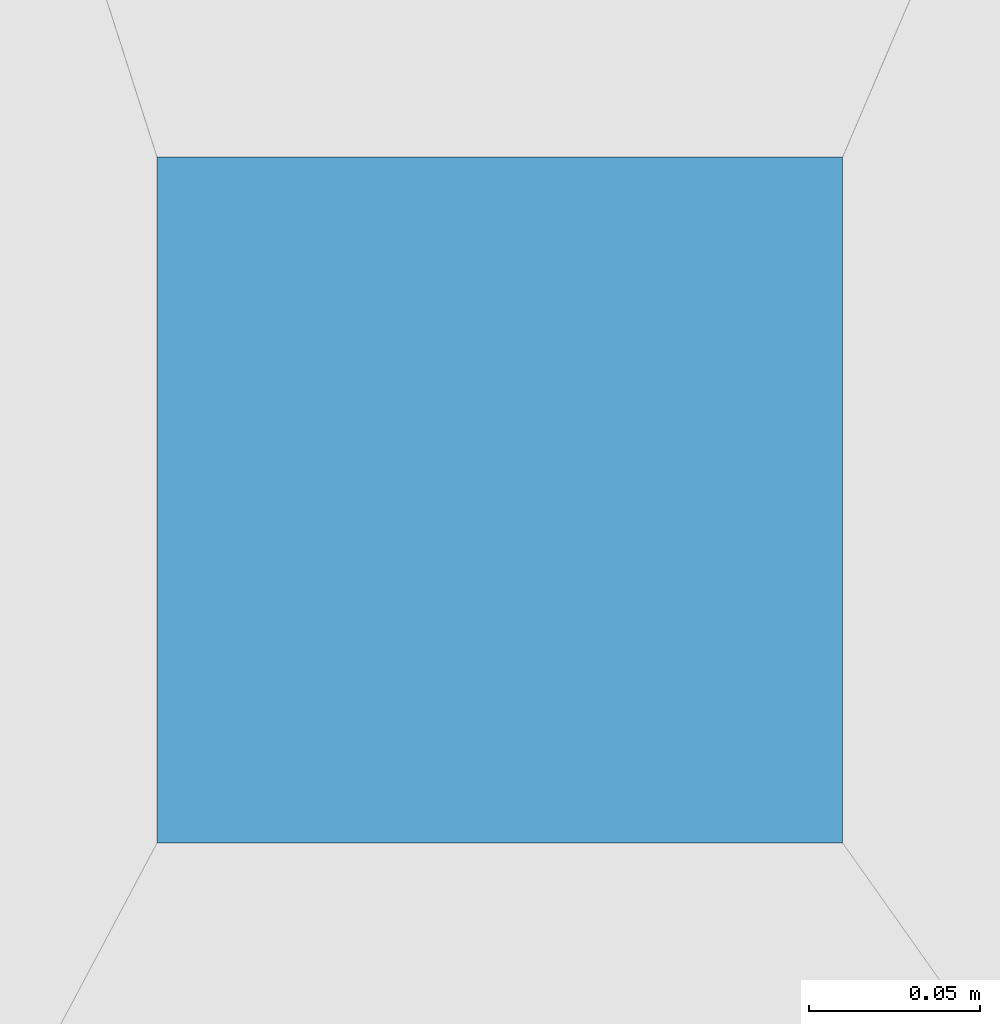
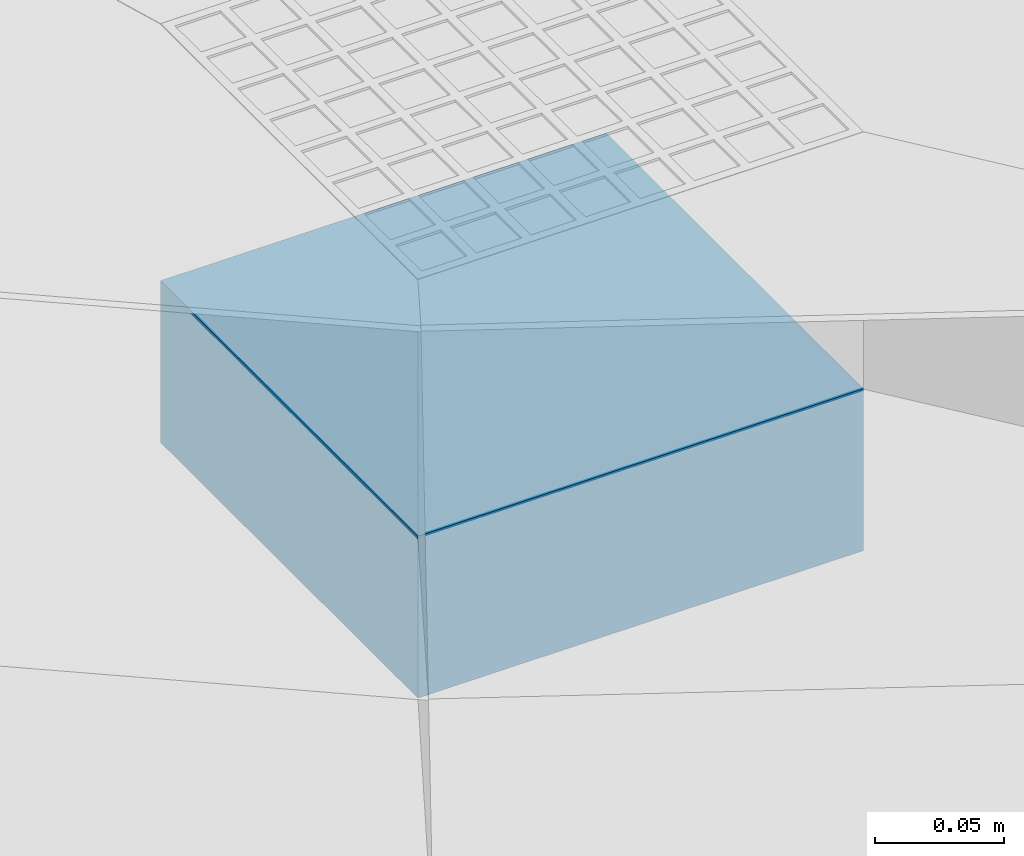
# One storey, part 149 of 418: 1 building element part, 1 element without a shape of its own.
"""IFC2X3 building model written with IfcOpenShell, lengths in millimetres."""

from ifc_helpers import new_model, entity, si_unit, converted_unit, derived_unit, money_unit, direction, frame, origin_with_axes, place, context, subcontext, project, spatial, polyline, outline, extrude, boolean, faceted_brep, material, type_object, element, aggregate, save


model = new_model("IFC2X3")

# Units and contexts
model_context = context("Model", 3, precision=0.01, world=origin_with_axes(), true_north=direction((0.0, 1.0)))
body_context = subcontext(model_context, "Body", "Model", "MODEL_VIEW")
ifc_project = project(units=[si_unit("LENGTHUNIT", "METRE", prefix="MILLI"), si_unit("AREAUNIT", "SQUARE_METRE"), si_unit("VOLUMEUNIT", "CUBIC_METRE"), converted_unit("PLANEANGLEUNIT", "DEGREE", entity("IfcPlaneAngleMeasure", 0.0174532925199), si_unit("PLANEANGLEUNIT", "RADIAN"), dimensions=[0, 0, 0, 0, 0, 0, 0]), si_unit("SOLIDANGLEUNIT", "STERADIAN"), money_unit("EUR"), converted_unit("TIMEUNIT", "Year", entity("IfcTimeMeasure", 31556926.0), si_unit("TIMEUNIT", "SECOND"), dimensions=[0, 0, 1, 0, 0, 0, 0]), si_unit("MASSUNIT", "GRAM", prefix="KILO"), si_unit("THERMODYNAMICTEMPERATUREUNIT", "DEGREE_CELSIUS"), si_unit("LUMINOUSINTENSITYUNIT", "LUMEN"), si_unit("ENERGYUNIT", "JOULE", prefix="MEGA"), derived_unit("THERMALCONDUCTANCEUNIT", [(si_unit("POWERUNIT", "WATT"), 1), (si_unit("LENGTHUNIT", "METRE"), -1), (si_unit("THERMODYNAMICTEMPERATUREUNIT", "KELVIN"), -1)]), derived_unit("SPECIFICHEATCAPACITYUNIT", [(si_unit("ENERGYUNIT", "JOULE"), 1), (si_unit("MASSUNIT", "GRAM", prefix="KILO"), -1), (si_unit("THERMODYNAMICTEMPERATUREUNIT", "KELVIN"), -1)]), derived_unit("MASSDENSITYUNIT", [(si_unit("MASSUNIT", "GRAM", prefix="KILO"), 1), (si_unit("VOLUMEUNIT", "CUBIC_METRE"), -1)])], contexts=[model_context])

# Site, building, storey
site_placement = place(None, origin_with_axes())
site = spatial("IfcSite", under=ifc_project, at=site_placement, Name="Paldiski mnt 245/1, Tallinn, Harjumaa", CompositionType="COMPLEX")
building_placement = place(site_placement, origin_with_axes())
building = spatial("IfcBuilding", under=site, at=building_placement, Name="RKAS Hoone üldnimetus (kasutust iseloomustav) -> IFC Project Manager -> SOLIBRI", CompositionType="ELEMENT")
storey_placement = place(building_placement, origin_with_axes())
storey = spatial("IfcBuildingStorey", under=building, at=storey_placement, Name="Esimene korrus", CompositionType="ELEMENT", Elevation=0.0)

# Plate, building element part
plate_type = type_object("IfcPlateType", Name="AP-02 pealiskihid 222", PredefinedType="NOTDEFINED")
plate_placement = place(storey_placement, frame((-55989.9999767, 995.071901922, 177.902209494), z_axis=(0.0, 0.0, 1.0), x_axis=(1.0, 0.0, 0.0)))
plate = element("IfcPlate", 1, at=plate_placement, inside=storey, type_object=plate_type, Name="Põranda soojustus")
ifc_material = material(Name="Kaldu lõigatud soojustus, EPS60 Silver")
building_element_part_placement = place(plate_placement, origin_with_axes())
building_element_part = element("IfcBuildingElementPart", 2, at=building_element_part_placement, material=ifc_material, Name="Kaldu lõigatud soojustus, EPS60 Silver", context=body_context, shape_type="CSG", body=[
    boolean("DIFFERENCE", boolean("DIFFERENCE", boolean("DIFFERENCE", extrude(outline(polyline([(200.0, 0.0), (0.0, 0.0), (0.0, -200.071908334), (200.0, -200.071908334), (200.0, 0.0)])), origin_with_axes(), (0.0, 0.0, 1.0), 100.0), faceted_brep([(0.0, 0.0, 23.0977905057), (200.0, 0.0, 23.0977905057), (200.0, 0.0, 0.0), (0.0, 0.0, 0.0), (200.0, -200.071908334, 23.0977905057), (0.0, -200.071908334, 23.0977905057), (200.0, -200.071908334, 0.0), (0.0, -200.071908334, 0.0)], [[[0, 1, 2, 3]], [[4, 1, 0, 5]], [[1, 4, 6, 2]], [[3, 2, 6, 7]], [[5, 0, 3, 7]], [[4, 5, 7, 6]]])), faceted_brep([(200.0, -200.071908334, 207.0), (200.0, -0.0719083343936, 207.0), (200.0, -0.0719083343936, 220.0), (200.0, -200.071908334, 220.0), (3.99999999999, -196.071908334, 207.0), (0.0, -200.071908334, 207.0), (0.0, -0.0719083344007, 207.0), (196.0, -196.071908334, 207.0), (196.0, -175.571908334, 207.0), (196.0, -171.571908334, 207.0), (196.0, -151.071908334, 207.0), (196.0, -147.071908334, 207.0), (196.0, -126.571908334, 207.0), (196.0, -122.571908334, 207.0), (196.0, -102.071908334, 207.0), (196.0, -98.0719083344, 207.0), (196.0, -77.5719083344, 207.0), (196.0, -73.5719083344, 207.0), (196.0, -53.0719083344, 207.0), (196.0, -49.0719083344, 207.0), (196.0, -28.5719083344, 207.0), (196.0, -24.5719083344, 207.0), (196.0, -4.07190833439, 207.0), (175.5, -4.07190833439, 207.0), (171.5, -4.07190833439, 207.0), (151.0, -4.0719083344, 207.0), (147.0, -4.0719083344, 207.0), (126.5, -4.0719083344, 207.0), (122.5, -4.0719083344, 207.0), (102.0, -4.0719083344, 207.0), (98.0, -4.0719083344, 207.0), (77.5, -4.0719083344, 207.0), (73.5, -4.0719083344, 207.0), (53.0, -4.0719083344, 207.0), (49.0, -4.0719083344, 207.0), (28.5, -4.0719083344, 207.0), (24.5, -4.0719083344, 207.0), (3.99999999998, -4.0719083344, 207.0), (3.99999999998, -24.5719083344, 207.0), (3.99999999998, -28.5719083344, 207.0), (3.99999999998, -49.0719083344, 207.0), (3.99999999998, -53.0719083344, 207.0), (3.99999999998, -73.5719083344, 207.0), (3.99999999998, -77.5719083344, 207.0), (3.99999999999, -98.0719083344, 207.0), (3.99999999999, -102.071908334, 207.0), (3.99999999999, -122.571908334, 207.0), (3.99999999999, -126.571908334, 207.0), (3.99999999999, -147.071908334, 207.0), (3.99999999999, -151.071908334, 207.0), (3.99999999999, -171.571908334, 207.0), (3.99999999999, -175.571908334, 207.0), (0.0, -0.0719083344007, 220.0), (0.0, -200.071908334, 220.0), (24.5, -196.071908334, 207.0), (24.5, -175.571908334, 207.0), (24.5, -171.571908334, 207.0), (24.5, -151.071908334, 207.0), (24.5, -147.071908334, 207.0), (24.5, -126.571908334, 207.0), (24.5, -122.571908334, 207.0), (24.5, -102.071908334, 207.0), (24.5, -98.0719083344, 207.0), (24.5, -77.5719083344, 207.0), (24.5, -73.5719083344, 207.0), (24.5, -53.0719083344, 207.0), (24.5, -49.0719083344, 207.0), (24.5, -28.5719083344, 207.0), (24.5, -24.5719083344, 207.0), (28.5, -24.5719083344, 207.0), (28.5, -28.5719083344, 207.0), (28.5, -49.0719083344, 207.0), (28.5, -53.0719083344, 207.0), (28.5, -73.5719083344, 207.0), (28.5, -77.5719083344, 207.0), (28.5, -98.0719083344, 207.0), (28.5, -102.071908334, 207.0), (28.5, -122.571908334, 207.0), (28.5, -126.571908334, 207.0), (28.5, -147.071908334, 207.0), (28.5, -151.071908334, 207.0), (28.5, -171.571908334, 207.0), (28.5, -175.571908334, 207.0), (28.5, -196.071908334, 207.0), (49.0, -196.071908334, 207.0), (49.0, -175.571908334, 207.0), (49.0, -171.571908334, 207.0), (49.0, -151.071908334, 207.0), (49.0, -147.071908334, 207.0), (49.0, -126.571908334, 207.0), (49.0, -122.571908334, 207.0), (49.0, -102.071908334, 207.0), (49.0, -98.0719083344, 207.0), (49.0, -77.5719083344, 207.0), (49.0, -73.5719083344, 207.0), (49.0, -53.0719083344, 207.0), (49.0, -49.0719083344, 207.0), (49.0, -28.5719083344, 207.0), (49.0, -24.5719083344, 207.0), (53.0, -24.5719083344, 207.0), (53.0, -28.5719083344, 207.0), (53.0, -49.0719083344, 207.0), (53.0, -53.0719083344, 207.0), (53.0, -73.5719083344, 207.0), (53.0, -77.5719083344, 207.0), (53.0, -98.0719083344, 207.0), (53.0, -102.071908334, 207.0), (53.0, -122.571908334, 207.0), (53.0, -126.571908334, 207.0), (53.0, -147.071908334, 207.0), (53.0, -151.071908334, 207.0), (53.0, -171.571908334, 207.0), (53.0, -175.571908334, 207.0), (53.0, -196.071908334, 207.0), (73.5, -196.071908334, 207.0), (73.5, -175.571908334, 207.0), (73.5, -171.571908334, 207.0), (73.5, -151.071908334, 207.0), (73.5, -147.071908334, 207.0), (73.5, -126.571908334, 207.0), (73.5, -122.571908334, 207.0), (73.5, -102.071908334, 207.0), (73.5, -98.0719083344, 207.0), (73.5, -77.5719083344, 207.0), (73.5, -73.5719083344, 207.0), (73.5, -53.0719083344, 207.0), (73.5, -49.0719083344, 207.0), (73.5, -28.5719083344, 207.0), (73.5, -24.5719083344, 207.0), (77.5, -24.5719083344, 207.0), (77.5, -28.5719083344, 207.0), (77.5, -49.0719083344, 207.0), (77.5, -53.0719083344, 207.0), (77.5, -73.5719083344, 207.0), (77.5, -77.5719083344, 207.0), (77.5, -98.0719083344, 207.0), (77.5, -102.071908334, 207.0), (77.5, -122.571908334, 207.0), (77.5, -126.571908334, 207.0), (77.5, -147.071908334, 207.0), (77.5, -151.071908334, 207.0), (77.5, -171.571908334, 207.0), (77.5, -175.571908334, 207.0), (77.5, -196.071908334, 207.0), (98.0, -196.071908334, 207.0), (98.0, -175.571908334, 207.0), (98.0, -171.571908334, 207.0), (98.0, -151.071908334, 207.0), (98.0, -147.071908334, 207.0), (98.0, -126.571908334, 207.0), (98.0, -122.571908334, 207.0), (98.0, -102.071908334, 207.0), (98.0, -98.0719083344, 207.0), (98.0, -77.5719083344, 207.0), (98.0, -73.5719083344, 207.0), (98.0, -53.0719083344, 207.0), (98.0, -49.0719083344, 207.0), (98.0, -28.5719083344, 207.0), (98.0, -24.5719083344, 207.0), (102.0, -24.5719083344, 207.0), (102.0, -28.5719083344, 207.0), (102.0, -49.0719083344, 207.0), (102.0, -53.0719083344, 207.0), (102.0, -73.5719083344, 207.0), (102.0, -77.5719083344, 207.0), (102.0, -98.0719083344, 207.0), (102.0, -102.071908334, 207.0), (102.0, -122.571908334, 207.0), (102.0, -126.571908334, 207.0), (102.0, -147.071908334, 207.0), (102.0, -151.071908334, 207.0), (102.0, -171.571908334, 207.0), (102.0, -175.571908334, 207.0), (102.0, -196.071908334, 207.0), (122.5, -196.071908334, 207.0), (122.5, -175.571908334, 207.0), (122.5, -171.571908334, 207.0), (122.5, -151.071908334, 207.0), (122.5, -147.071908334, 207.0), (122.5, -126.571908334, 207.0), (122.5, -122.571908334, 207.0), (122.5, -102.071908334, 207.0), (122.5, -98.0719083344, 207.0), (122.5, -77.5719083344, 207.0), (122.5, -73.5719083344, 207.0), (122.5, -53.0719083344, 207.0), (122.5, -49.0719083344, 207.0), (122.5, -28.5719083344, 207.0), (122.5, -24.5719083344, 207.0), (126.5, -24.5719083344, 207.0), (126.5, -28.5719083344, 207.0), (126.5, -49.0719083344, 207.0), (126.5, -53.0719083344, 207.0), (126.5, -73.5719083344, 207.0), (126.5, -77.5719083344, 207.0), (126.5, -98.0719083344, 207.0), (126.5, -102.071908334, 207.0), (126.5, -122.571908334, 207.0), (126.5, -126.571908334, 207.0), (126.5, -147.071908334, 207.0), (126.5, -151.071908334, 207.0), (126.5, -171.571908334, 207.0), (126.5, -175.571908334, 207.0), (126.5, -196.071908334, 207.0), (147.0, -196.071908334, 207.0), (147.0, -175.571908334, 207.0), (147.0, -171.571908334, 207.0), (147.0, -151.071908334, 207.0), (147.0, -147.071908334, 207.0), (147.0, -126.571908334, 207.0), (147.0, -122.571908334, 207.0), (147.0, -102.071908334, 207.0), (147.0, -98.0719083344, 207.0), (147.0, -77.5719083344, 207.0), (147.0, -73.5719083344, 207.0), (147.0, -53.0719083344, 207.0), (147.0, -49.0719083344, 207.0), (147.0, -28.5719083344, 207.0), (147.0, -24.5719083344, 207.0), (151.0, -24.5719083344, 207.0), (151.0, -28.5719083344, 207.0), (151.0, -49.0719083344, 207.0), (151.0, -53.0719083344, 207.0), (151.0, -73.5719083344, 207.0), (151.0, -77.5719083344, 207.0), (151.0, -98.0719083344, 207.0), (151.0, -102.071908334, 207.0), (151.0, -122.571908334, 207.0), (151.0, -126.571908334, 207.0), (151.0, -147.071908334, 207.0), (151.0, -151.071908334, 207.0), (151.0, -171.571908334, 207.0), (151.0, -175.571908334, 207.0), (151.0, -196.071908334, 207.0), (171.5, -196.071908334, 207.0), (171.5, -175.571908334, 207.0), (171.5, -171.571908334, 207.0), (171.5, -151.071908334, 207.0), (171.5, -147.071908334, 207.0), (171.5, -126.571908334, 207.0), (171.5, -122.571908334, 207.0), (171.5, -102.071908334, 207.0), (171.5, -98.0719083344, 207.0), (171.5, -77.5719083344, 207.0), (171.5, -73.5719083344, 207.0), (171.5, -53.0719083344, 207.0), (171.5, -49.0719083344, 207.0), (171.5, -28.5719083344, 207.0), (171.5, -24.5719083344, 207.0), (175.5, -24.5719083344, 207.0), (175.5, -28.5719083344, 207.0), (175.5, -49.0719083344, 207.0), (175.5, -53.0719083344, 207.0), (175.5, -73.5719083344, 207.0), (175.5, -77.5719083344, 207.0), (175.5, -98.0719083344, 207.0), (175.5, -102.071908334, 207.0), (175.5, -122.571908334, 207.0), (175.5, -126.571908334, 207.0), (175.5, -147.071908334, 207.0), (175.5, -151.071908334, 207.0), (175.5, -171.571908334, 207.0), (175.5, -175.571908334, 207.0), (175.5, -196.071908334, 207.0), (196.0, -196.071908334, 208.15), (196.0, -175.571908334, 208.15), (196.0, -171.571908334, 208.15), (196.0, -151.071908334, 208.15), (196.0, -147.071908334, 208.15), (196.0, -126.571908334, 208.15), (196.0, -122.571908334, 208.15), (196.0, -102.071908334, 208.15), (196.0, -98.0719083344, 208.15), (196.0, -77.5719083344, 208.15), (196.0, -73.5719083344, 208.15), (196.0, -53.0719083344, 208.15), (196.0, -49.0719083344, 208.15), (196.0, -28.5719083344, 208.15), (196.0, -24.5719083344, 208.15), (196.0, -4.07190833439, 208.15), (175.5, -4.07190833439, 208.15), (171.5, -4.07190833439, 208.15), (151.0, -4.0719083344, 208.15), (147.0, -4.0719083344, 208.15), (126.5, -4.0719083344, 208.15), (122.5, -4.0719083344, 208.15), (102.0, -4.0719083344, 208.15), (98.0, -4.0719083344, 208.15), (77.5, -4.0719083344, 208.15), (73.5, -4.0719083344, 208.15), (53.0, -4.0719083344, 208.15), (49.0, -4.0719083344, 208.15), (28.5, -4.0719083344, 208.15), (24.5, -4.0719083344, 208.15), (3.99999999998, -4.0719083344, 208.15), (3.99999999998, -24.5719083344, 208.15), (3.99999999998, -28.5719083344, 208.15), (3.99999999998, -49.0719083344, 208.15), (3.99999999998, -53.0719083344, 208.15), (3.99999999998, -73.5719083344, 208.15), (3.99999999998, -77.5719083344, 208.15), (3.99999999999, -98.0719083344, 208.15), (3.99999999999, -102.071908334, 208.15), (3.99999999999, -122.571908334, 208.15), (3.99999999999, -126.571908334, 208.15), (3.99999999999, -147.071908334, 208.15), (3.99999999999, -151.071908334, 208.15), (3.99999999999, -171.571908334, 208.15), (3.99999999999, -175.571908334, 208.15), (3.99999999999, -196.071908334, 208.15), (24.5, -196.071908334, 208.15), (24.5, -175.571908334, 208.15), (24.5, -171.571908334, 208.15), (24.5, -151.071908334, 208.15), (24.5, -147.071908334, 208.15), (24.5, -126.571908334, 208.15), (24.5, -122.571908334, 208.15), (24.5, -102.071908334, 208.15), (24.5, -98.0719083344, 208.15), (24.5, -77.5719083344, 208.15), (24.5, -73.5719083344, 208.15), (24.5, -53.0719083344, 208.15), (24.5, -49.0719083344, 208.15), (24.5, -28.5719083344, 208.15), (24.5, -24.5719083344, 208.15), (28.5, -24.5719083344, 208.15), (28.5, -28.5719083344, 208.15), (28.5, -49.0719083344, 208.15), (28.5, -53.0719083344, 208.15), (28.5, -73.5719083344, 208.15), (28.5, -77.5719083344, 208.15), (28.5, -98.0719083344, 208.15), (28.5, -102.071908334, 208.15), (28.5, -122.571908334, 208.15), (28.5, -126.571908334, 208.15), (28.5, -147.071908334, 208.15), (28.5, -151.071908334, 208.15), (28.5, -171.571908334, 208.15), (28.5, -175.571908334, 208.15), (28.5, -196.071908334, 208.15), (49.0, -196.071908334, 208.15), (49.0, -175.571908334, 208.15), (49.0, -171.571908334, 208.15), (49.0, -151.071908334, 208.15), (49.0, -147.071908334, 208.15), (49.0, -126.571908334, 208.15), (49.0, -122.571908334, 208.15), (49.0, -102.071908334, 208.15), (49.0, -98.0719083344, 208.15), (49.0, -77.5719083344, 208.15), (49.0, -73.5719083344, 208.15), (49.0, -53.0719083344, 208.15), (49.0, -49.0719083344, 208.15), (49.0, -28.5719083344, 208.15), (49.0, -24.5719083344, 208.15), (53.0, -24.5719083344, 208.15), (53.0, -28.5719083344, 208.15), (53.0, -49.0719083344, 208.15), (53.0, -53.0719083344, 208.15), (53.0, -73.5719083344, 208.15), (53.0, -77.5719083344, 208.15), (53.0, -98.0719083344, 208.15), (53.0, -102.071908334, 208.15), (53.0, -122.571908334, 208.15), (53.0, -126.571908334, 208.15), (53.0, -147.071908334, 208.15), (53.0, -151.071908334, 208.15), (53.0, -171.571908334, 208.15), (53.0, -175.571908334, 208.15), (53.0, -196.071908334, 208.15), (73.5, -196.071908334, 208.15), (73.5, -175.571908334, 208.15), (73.5, -171.571908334, 208.15), (73.5, -151.071908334, 208.15), (73.5, -147.071908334, 208.15), (73.5, -126.571908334, 208.15), (73.5, -122.571908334, 208.15), (73.5, -102.071908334, 208.15), (73.5, -98.0719083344, 208.15), (73.5, -77.5719083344, 208.15), (73.5, -73.5719083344, 208.15), (73.5, -53.0719083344, 208.15), (73.5, -49.0719083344, 208.15), (73.5, -28.5719083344, 208.15), (73.5, -24.5719083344, 208.15), (77.5, -24.5719083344, 208.15), (77.5, -28.5719083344, 208.15), (77.5, -49.0719083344, 208.15), (77.5, -53.0719083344, 208.15), (77.5, -73.5719083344, 208.15), (77.5, -77.5719083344, 208.15), (77.5, -98.0719083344, 208.15), (77.5, -102.071908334, 208.15), (77.5, -122.571908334, 208.15), (77.5, -126.571908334, 208.15), (77.5, -147.071908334, 208.15), (77.5, -151.071908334, 208.15), (77.5, -171.571908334, 208.15), (77.5, -175.571908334, 208.15), (77.5, -196.071908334, 208.15), (98.0, -196.071908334, 208.15), (98.0, -175.571908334, 208.15), (98.0, -171.571908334, 208.15), (98.0, -151.071908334, 208.15), (98.0, -147.071908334, 208.15), (98.0, -126.571908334, 208.15), (98.0, -122.571908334, 208.15), (98.0, -102.071908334, 208.15), (98.0, -98.0719083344, 208.15), (98.0, -77.5719083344, 208.15), (98.0, -73.5719083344, 208.15), (98.0, -53.0719083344, 208.15), (98.0, -49.0719083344, 208.15), (98.0, -28.5719083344, 208.15), (98.0, -24.5719083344, 208.15), (102.0, -24.5719083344, 208.15), (102.0, -28.5719083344, 208.15), (102.0, -49.0719083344, 208.15), (102.0, -53.0719083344, 208.15), (102.0, -73.5719083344, 208.15), (102.0, -77.5719083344, 208.15), (102.0, -98.0719083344, 208.15), (102.0, -102.071908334, 208.15), (102.0, -122.571908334, 208.15), (102.0, -126.571908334, 208.15), (102.0, -147.071908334, 208.15), (102.0, -151.071908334, 208.15), (102.0, -171.571908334, 208.15), (102.0, -175.571908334, 208.15), (102.0, -196.071908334, 208.15), (122.5, -196.071908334, 208.15), (122.5, -175.571908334, 208.15), (122.5, -171.571908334, 208.15), (122.5, -151.071908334, 208.15), (122.5, -147.071908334, 208.15), (122.5, -126.571908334, 208.15), (122.5, -122.571908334, 208.15), (122.5, -102.071908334, 208.15), (122.5, -98.0719083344, 208.15), (122.5, -77.5719083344, 208.15), (122.5, -73.5719083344, 208.15), (122.5, -53.0719083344, 208.15), (122.5, -49.0719083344, 208.15), (122.5, -28.5719083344, 208.15), (122.5, -24.5719083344, 208.15), (126.5, -24.5719083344, 208.15), (126.5, -28.5719083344, 208.15), (126.5, -49.0719083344, 208.15), (126.5, -53.0719083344, 208.15), (126.5, -73.5719083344, 208.15), (126.5, -77.5719083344, 208.15), (126.5, -98.0719083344, 208.15), (126.5, -102.071908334, 208.15), (126.5, -122.571908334, 208.15), (126.5, -126.571908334, 208.15), (126.5, -147.071908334, 208.15), (126.5, -151.071908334, 208.15), (126.5, -171.571908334, 208.15), (126.5, -175.571908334, 208.15), (126.5, -196.071908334, 208.15), (147.0, -196.071908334, 208.15), (147.0, -175.571908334, 208.15), (147.0, -171.571908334, 208.15), (147.0, -151.071908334, 208.15), (147.0, -147.071908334, 208.15), (147.0, -126.571908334, 208.15), (147.0, -122.571908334, 208.15), (147.0, -102.071908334, 208.15), (147.0, -98.0719083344, 208.15), (147.0, -77.5719083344, 208.15), (147.0, -73.5719083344, 208.15), (147.0, -53.0719083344, 208.15), (147.0, -49.0719083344, 208.15), (147.0, -28.5719083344, 208.15), (147.0, -24.5719083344, 208.15), (151.0, -24.5719083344, 208.15), (151.0, -28.5719083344, 208.15), (151.0, -49.0719083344, 208.15), (151.0, -53.0719083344, 208.15), (151.0, -73.5719083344, 208.15), (151.0, -77.5719083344, 208.15), (151.0, -98.0719083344, 208.15), (151.0, -102.071908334, 208.15), (151.0, -122.571908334, 208.15), (151.0, -126.571908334, 208.15), (151.0, -147.071908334, 208.15), (151.0, -151.071908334, 208.15), (151.0, -171.571908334, 208.15), (151.0, -175.571908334, 208.15), (151.0, -196.071908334, 208.15), (171.5, -196.071908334, 208.15), (171.5, -175.571908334, 208.15), (171.5, -171.571908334, 208.15), (171.5, -151.071908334, 208.15), (171.5, -147.071908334, 208.15), (171.5, -126.571908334, 208.15), (171.5, -122.571908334, 208.15), (171.5, -102.071908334, 208.15), (171.5, -98.0719083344, 208.15), (171.5, -77.5719083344, 208.15), (171.5, -73.5719083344, 208.15), (171.5, -53.0719083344, 208.15), (171.5, -49.0719083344, 208.15), (171.5, -28.5719083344, 208.15), (171.5, -24.5719083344, 208.15), (175.5, -24.5719083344, 208.15), (175.5, -28.5719083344, 208.15), (175.5, -49.0719083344, 208.15), (175.5, -53.0719083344, 208.15), (175.5, -73.5719083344, 208.15), (175.5, -77.5719083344, 208.15), (175.5, -98.0719083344, 208.15), (175.5, -102.071908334, 208.15), (175.5, -122.571908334, 208.15), (175.5, -126.571908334, 208.15), (175.5, -147.071908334, 208.15), (175.5, -151.071908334, 208.15), (175.5, -171.571908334, 208.15), (175.5, -175.571908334, 208.15), (175.5, -196.071908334, 208.15)], [[[0, 1, 2, 3]], [[4, 5, 6, 1, 0, 7, 8, 9, 10, 11, 12, 13, 14, 15, 16, 17, 18, 19, 20, 21, 22, 23, 24, 25, 26, 27, 28, 29, 30, 31, 32, 33, 34, 35, 36, 37, 38, 39, 40, 41, 42, 43, 44, 45, 46, 47, 48, 49, 50, 51]], [[52, 2, 1, 6]], [[2, 52, 53, 3]], [[5, 0, 3, 53]], [[5, 4, 54, 55, 56, 57, 58, 59, 60, 61, 62, 63, 64, 65, 66, 67, 68, 36, 35, 69, 70, 71, 72, 73, 74, 75, 76, 77, 78, 79, 80, 81, 82, 83, 84, 85, 86, 87, 88, 89, 90, 91, 92, 93, 94, 95, 96, 97, 98, 34, 33, 99, 100, 101, 102, 103, 104, 105, 106, 107, 108, 109, 110, 111, 112, 113, 114, 115, 116, 117, 118, 119, 120, 121, 122, 123, 124, 125, 126, 127, 128, 32, 31, 129, 130, 131, 132, 133, 134, 135, 136, 137, 138, 139, 140, 141, 142, 143, 144, 145, 146, 147, 148, 149, 150, 151, 152, 153, 154, 155, 156, 157, 158, 30, 29, 159, 160, 161, 162, 163, 164, 165, 166, 167, 168, 169, 170, 171, 172, 173, 174, 175, 176, 177, 178, 179, 180, 181, 182, 183, 184, 185, 186, 187, 188, 28, 27, 189, 190, 191, 192, 193, 194, 195, 196, 197, 198, 199, 200, 201, 202, 203, 204, 205, 206, 207, 208, 209, 210, 211, 212, 213, 214, 215, 216, 217, 218, 26, 25, 219, 220, 221, 222, 223, 224, 225, 226, 227, 228, 229, 230, 231, 232, 233, 234, 235, 236, 237, 238, 239, 240, 241, 242, 243, 244, 245, 246, 247, 248, 24, 23, 249, 250, 251, 252, 253, 254, 255, 256, 257, 258, 259, 260, 261, 262, 263, 7, 0]], [[6, 5, 53, 52]], [[8, 7, 264, 265]], [[9, 8, 262, 261]], [[10, 9, 266, 267]], [[260, 259, 11, 10]], [[12, 11, 268, 269]], [[258, 257, 13, 12]], [[14, 13, 270, 271]], [[256, 255, 15, 14]], [[16, 15, 272, 273]], [[17, 16, 254, 253]], [[18, 17, 274, 275]], [[252, 251, 19, 18]], [[20, 19, 276, 277]], [[249, 21, 20, 250]], [[22, 21, 278, 279]], [[23, 22, 279, 280]], [[25, 24, 281, 282]], [[27, 26, 283, 284]], [[29, 28, 285, 286]], [[31, 30, 287, 288]], [[33, 32, 289, 290]], [[35, 34, 291, 292]], [[37, 36, 293, 294]], [[38, 37, 294, 295]], [[68, 67, 39, 38]], [[40, 39, 296, 297]], [[66, 65, 41, 40]], [[42, 41, 298, 299]], [[43, 42, 64, 63]], [[44, 43, 300, 301]], [[44, 62, 61, 45]], [[46, 45, 302, 303]], [[46, 60, 59, 47]], [[48, 47, 304, 305]], [[48, 58, 57, 49]], [[50, 49, 306, 307]], [[50, 56, 55, 51]], [[4, 51, 308, 309]], [[309, 310, 54, 4]], [[55, 54, 310, 311]], [[57, 56, 312, 313]], [[59, 58, 314, 315]], [[61, 60, 316, 317]], [[63, 62, 318, 319]], [[65, 64, 320, 321]], [[67, 66, 322, 323]], [[324, 293, 36, 68]], [[69, 35, 292, 325]], [[98, 97, 70, 69]], [[71, 70, 326, 327]], [[96, 95, 72, 71]], [[73, 72, 328, 329]], [[94, 93, 74, 73]], [[75, 74, 330, 331]], [[92, 91, 76, 75]], [[77, 76, 332, 333]], [[77, 90, 89, 78]], [[79, 78, 334, 335]], [[79, 88, 87, 80]], [[81, 80, 336, 337]], [[81, 86, 85, 82]], [[83, 82, 338, 339]], [[339, 340, 84, 83]], [[85, 84, 340, 341]], [[87, 86, 342, 343]], [[89, 88, 344, 345]], [[91, 90, 346, 347]], [[93, 92, 348, 349]], [[95, 94, 350, 351]], [[97, 96, 352, 353]], [[354, 291, 34, 98]], [[99, 33, 290, 355]], [[99, 128, 127, 100]], [[101, 100, 356, 357]], [[126, 125, 102, 101]], [[103, 102, 358, 359]], [[103, 124, 123, 104]], [[105, 104, 360, 361]], [[106, 105, 122, 121]], [[107, 106, 362, 363]], [[120, 119, 108, 107]], [[109, 108, 364, 365]], [[109, 118, 117, 110]], [[111, 110, 366, 367]], [[116, 115, 112, 111]], [[113, 112, 368, 369]], [[369, 370, 114, 113]], [[115, 114, 370, 371]], [[117, 116, 372, 373]], [[119, 118, 374, 375]], [[121, 120, 376, 377]], [[123, 122, 378, 379]], [[125, 124, 380, 381]], [[127, 126, 382, 383]], [[384, 289, 32, 128]], [[288, 385, 129, 31]], [[158, 157, 130, 129]], [[131, 130, 386, 387]], [[131, 156, 155, 132]], [[133, 132, 388, 389]], [[133, 154, 153, 134]], [[135, 134, 390, 391]], [[136, 135, 152, 151]], [[137, 136, 392, 393]], [[150, 149, 138, 137]], [[139, 138, 394, 395]], [[148, 147, 140, 139]], [[141, 140, 396, 397]], [[146, 145, 142, 141]], [[143, 142, 398, 399]], [[399, 400, 144, 143]], [[145, 144, 400, 401]], [[147, 146, 402, 403]], [[149, 148, 404, 405]], [[151, 150, 406, 407]], [[153, 152, 408, 409]], [[155, 154, 410, 411]], [[157, 156, 412, 413]], [[30, 158, 414, 287]], [[159, 29, 286, 415]], [[159, 188, 187, 160]], [[161, 160, 416, 417]], [[161, 186, 185, 162]], [[163, 162, 418, 419]], [[163, 184, 183, 164]], [[165, 164, 420, 421]], [[165, 182, 181, 166]], [[167, 166, 422, 423]], [[180, 179, 168, 167]], [[169, 168, 424, 425]], [[178, 177, 170, 169]], [[171, 170, 426, 427]], [[171, 176, 175, 172]], [[173, 172, 428, 429]], [[429, 430, 174, 173]], [[175, 174, 430, 431]], [[177, 176, 432, 433]], [[179, 178, 434, 435]], [[181, 180, 436, 437]], [[183, 182, 438, 439]], [[185, 184, 440, 441]], [[187, 186, 442, 443]], [[444, 285, 28, 188]], [[189, 27, 284, 445]], [[218, 217, 190, 189]], [[191, 190, 446, 447]], [[216, 215, 192, 191]], [[193, 192, 448, 449]], [[214, 213, 194, 193]], [[195, 194, 450, 451]], [[212, 211, 196, 195]], [[197, 196, 452, 453]], [[210, 209, 198, 197]], [[199, 198, 454, 455]], [[199, 208, 207, 200]], [[201, 200, 456, 457]], [[206, 205, 202, 201]], [[203, 202, 458, 459]], [[459, 460, 204, 203]], [[205, 204, 460, 461]], [[207, 206, 462, 463]], [[209, 208, 464, 465]], [[211, 210, 466, 467]], [[213, 212, 468, 469]], [[215, 214, 470, 471]], [[217, 216, 472, 473]], [[474, 283, 26, 218]], [[219, 25, 282, 475]], [[248, 247, 220, 219]], [[221, 220, 476, 477]], [[222, 221, 246, 245]], [[223, 222, 478, 479]], [[224, 223, 244, 243]], [[225, 224, 480, 481]], [[226, 225, 242, 241]], [[227, 226, 482, 483]], [[240, 239, 228, 227]], [[229, 228, 484, 485]], [[238, 237, 230, 229]], [[231, 230, 486, 487]], [[236, 235, 232, 231]], [[233, 232, 488, 489]], [[489, 490, 234, 233]], [[235, 234, 490, 491]], [[237, 236, 492, 493]], [[239, 238, 494, 495]], [[241, 240, 496, 497]], [[243, 242, 498, 499]], [[245, 244, 500, 501]], [[247, 246, 502, 503]], [[504, 281, 24, 248]], [[280, 505, 249, 23]], [[251, 250, 506, 507]], [[253, 252, 508, 509]], [[255, 254, 510, 511]], [[257, 256, 512, 513]], [[259, 258, 514, 515]], [[261, 260, 516, 517]], [[263, 262, 518, 519]], [[519, 264, 7, 263]], [[518, 265, 264, 519]], [[262, 8, 265, 518]], [[517, 266, 9, 261]], [[267, 266, 517, 516]], [[260, 10, 267, 516]], [[515, 268, 11, 259]], [[515, 514, 269, 268]], [[258, 12, 269, 514]], [[513, 270, 13, 257]], [[271, 270, 513, 512]], [[256, 14, 271, 512]], [[511, 272, 15, 255]], [[273, 272, 511, 510]], [[254, 16, 273, 510]], [[509, 274, 17, 253]], [[275, 274, 509, 508]], [[252, 18, 275, 508]], [[507, 276, 19, 251]], [[277, 276, 507, 506]], [[250, 20, 277, 506]], [[505, 278, 21, 249]], [[280, 279, 278, 505]], [[475, 282, 281, 504]], [[445, 284, 283, 474]], [[415, 286, 285, 444]], [[287, 414, 385, 288]], [[355, 290, 289, 384]], [[325, 292, 291, 354]], [[295, 294, 293, 324]], [[295, 324, 68, 38]], [[39, 67, 323, 296]], [[296, 323, 322, 297]], [[297, 322, 66, 40]], [[41, 65, 321, 298]], [[299, 298, 321, 320]], [[299, 320, 64, 42]], [[43, 63, 319, 300]], [[301, 300, 319, 318]], [[301, 318, 62, 44]], [[45, 61, 317, 302]], [[303, 302, 317, 316]], [[303, 316, 60, 46]], [[47, 59, 315, 304]], [[305, 304, 315, 314]], [[305, 314, 58, 48]], [[49, 57, 313, 306]], [[307, 306, 313, 312]], [[307, 312, 56, 50]], [[51, 55, 311, 308]], [[309, 308, 311, 310]], [[325, 354, 98, 69]], [[70, 97, 353, 326]], [[326, 353, 352, 327]], [[327, 352, 96, 71]], [[72, 95, 351, 328]], [[328, 351, 350, 329]], [[329, 350, 94, 73]], [[74, 93, 349, 330]], [[349, 348, 331, 330]], [[331, 348, 92, 75]], [[76, 91, 347, 332]], [[332, 347, 346, 333]], [[333, 346, 90, 77]], [[78, 89, 345, 334]], [[335, 334, 345, 344]], [[335, 344, 88, 79]], [[80, 87, 343, 336]], [[343, 342, 337, 336]], [[337, 342, 86, 81]], [[82, 85, 341, 338]], [[338, 341, 340, 339]], [[355, 384, 128, 99]], [[100, 127, 383, 356]], [[356, 383, 382, 357]], [[357, 382, 126, 101]], [[102, 125, 381, 358]], [[381, 380, 359, 358]], [[359, 380, 124, 103]], [[104, 123, 379, 360]], [[379, 378, 361, 360]], [[361, 378, 122, 105]], [[106, 121, 377, 362]], [[362, 377, 376, 363]], [[363, 376, 120, 107]], [[108, 119, 375, 364]], [[375, 374, 365, 364]], [[365, 374, 118, 109]], [[110, 117, 373, 366]], [[367, 366, 373, 372]], [[367, 372, 116, 111]], [[112, 115, 371, 368]], [[369, 368, 371, 370]], [[385, 414, 158, 129]], [[130, 157, 413, 386]], [[386, 413, 412, 387]], [[387, 412, 156, 131]], [[132, 155, 411, 388]], [[389, 388, 411, 410]], [[389, 410, 154, 133]], [[134, 153, 409, 390]], [[391, 390, 409, 408]], [[391, 408, 152, 135]], [[136, 151, 407, 392]], [[407, 406, 393, 392]], [[393, 406, 150, 137]], [[138, 149, 405, 394]], [[405, 404, 395, 394]], [[395, 404, 148, 139]], [[140, 147, 403, 396]], [[396, 403, 402, 397]], [[397, 402, 146, 141]], [[142, 145, 401, 398]], [[398, 401, 400, 399]], [[415, 444, 188, 159]], [[160, 187, 443, 416]], [[416, 443, 442, 417]], [[417, 442, 186, 161]], [[162, 185, 441, 418]], [[441, 440, 419, 418]], [[419, 440, 184, 163]], [[164, 183, 439, 420]], [[439, 438, 421, 420]], [[421, 438, 182, 165]], [[166, 181, 437, 422]], [[437, 436, 423, 422]], [[423, 436, 180, 167]], [[168, 179, 435, 424]], [[435, 434, 425, 424]], [[425, 434, 178, 169]], [[170, 177, 433, 426]], [[427, 426, 433, 432]], [[427, 432, 176, 171]], [[172, 175, 431, 428]], [[429, 428, 431, 430]], [[445, 474, 218, 189]], [[190, 217, 473, 446]], [[447, 446, 473, 472]], [[447, 472, 216, 191]], [[192, 215, 471, 448]], [[449, 448, 471, 470]], [[449, 470, 214, 193]], [[194, 213, 469, 450]], [[451, 450, 469, 468]], [[451, 468, 212, 195]], [[196, 211, 467, 452]], [[452, 467, 466, 453]], [[453, 466, 210, 197]], [[198, 209, 465, 454]], [[455, 454, 465, 464]], [[455, 464, 208, 199]], [[200, 207, 463, 456]], [[457, 456, 463, 462]], [[457, 462, 206, 201]], [[202, 205, 461, 458]], [[458, 461, 460, 459]], [[475, 504, 248, 219]], [[220, 247, 503, 476]], [[503, 502, 477, 476]], [[477, 502, 246, 221]], [[222, 245, 501, 478]], [[501, 500, 479, 478]], [[479, 500, 244, 223]], [[224, 243, 499, 480]], [[499, 498, 481, 480]], [[481, 498, 242, 225]], [[226, 241, 497, 482]], [[482, 497, 496, 483]], [[483, 496, 240, 227]], [[228, 239, 495, 484]], [[495, 494, 485, 484]], [[485, 494, 238, 229]], [[230, 237, 493, 486]], [[493, 492, 487, 486]], [[487, 492, 236, 231]], [[232, 235, 491, 488]], [[488, 491, 490, 489]]])), faceted_brep([(200.0, -0.0719083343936, 220.0), (200.0, -0.0719083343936, 222.0), (200.0, -200.071908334, 222.0), (200.0, -200.071908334, 220.0), (0.0, -0.0719083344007, 222.0), (0.0, -0.0719083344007, 220.0), (0.0, -200.071908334, 222.0), (0.0, -200.071908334, 220.0)], [[[0, 1, 2, 3]], [[4, 1, 0, 5]], [[1, 4, 6, 2]], [[6, 7, 3, 2]], [[5, 0, 3, 7]], [[4, 5, 7, 6]]])),
])
aggregate(plate, [building_element_part])

save(model, "model.ifc")
